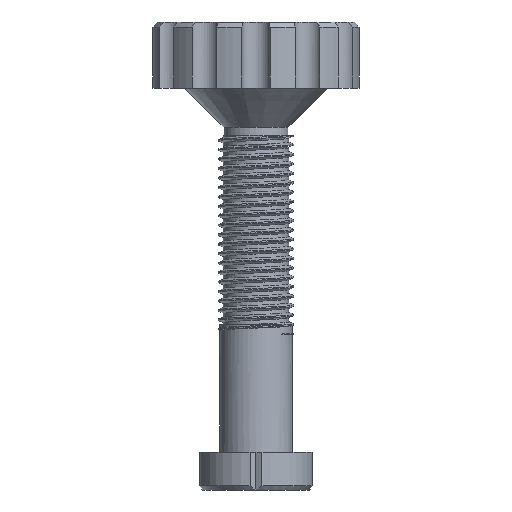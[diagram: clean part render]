
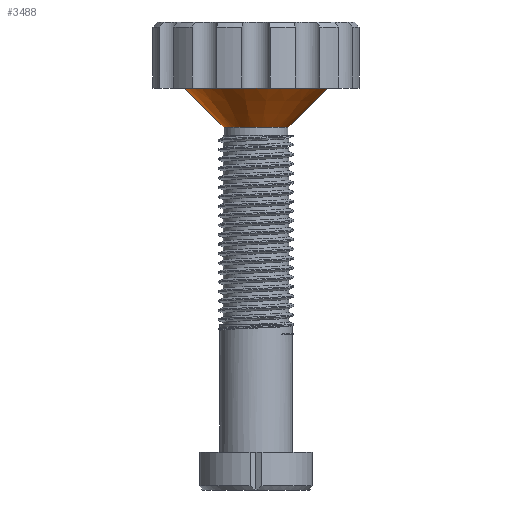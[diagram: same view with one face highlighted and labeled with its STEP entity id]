
A CAD part, front view. The second image highlights one B-rep face of the part: STEP entity #3488.
In plain terms, the highlighted conical face has half-angle 45 degrees and reference radius 6.768 mm.
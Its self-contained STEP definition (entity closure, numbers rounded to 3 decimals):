
#118 = PLANE('',#119);
#119 = AXIS2_PLACEMENT_3D('',#120,#121,#122);
#120 = CARTESIAN_POINT('',(0.,0.,76.));
#121 = DIRECTION('',(0.,0.,1.));
#122 = DIRECTION('',(1.,0.,-0.));
#1050 = EDGE_CURVE('',#1051,#1051,#1053,.T.);
#1051 = VERTEX_POINT('',#1052);
#1052 = CARTESIAN_POINT('',(15.05,0.,76.));
#1053 = SURFACE_CURVE('',#1054,(#1059,#1066),.PCURVE_S1.);
#1054 = CIRCLE('',#1055,15.05);
#1055 = AXIS2_PLACEMENT_3D('',#1056,#1057,#1058);
#1056 = CARTESIAN_POINT('',(0.,0.,76.));
#1057 = DIRECTION('',(0.,0.,1.));
#1058 = DIRECTION('',(1.,0.,-0.));
#1059 = PCURVE('',#118,#1060);
#1060 = DEFINITIONAL_REPRESENTATION('',(#1061),#1065);
#1061 = CIRCLE('',#1062,15.05);
#1062 = AXIS2_PLACEMENT_2D('',#1063,#1064);
#1063 = CARTESIAN_POINT('',(0.,0.));
#1064 = DIRECTION('',(1.,0.));
#1065 = ( GEOMETRIC_REPRESENTATION_CONTEXT(2) 
PARAMETRIC_REPRESENTATION_CONTEXT() REPRESENTATION_CONTEXT('2D SPACE',''
  ) );
#1066 = PCURVE('',#1067,#1072);
#1067 = CONICAL_SURFACE('',#1068,6.767,0.785);
#1068 = AXIS2_PLACEMENT_3D('',#1069,#1070,#1071);
#1069 = CARTESIAN_POINT('',(0.,0.,67.717));
#1070 = DIRECTION('',(0.,0.,1.));
#1071 = DIRECTION('',(1.,0.,-0.));
#1072 = DEFINITIONAL_REPRESENTATION('',(#1073),#1077);
#1073 = LINE('',#1074,#1075);
#1074 = CARTESIAN_POINT('',(0.,8.283));
#1075 = VECTOR('',#1076,1.);
#1076 = DIRECTION('',(1.,0.));
#1077 = ( GEOMETRIC_REPRESENTATION_CONTEXT(2) 
PARAMETRIC_REPRESENTATION_CONTEXT() REPRESENTATION_CONTEXT('2D SPACE',''
  ) );
#3488 = ADVANCED_FACE('',(#3489),#1067,.T.);
#3489 = FACE_BOUND('',#3490,.T.);
#3490 = EDGE_LOOP('',(#3491,#3492,#3515,#3542));
#3491 = ORIENTED_EDGE('',*,*,#1050,.F.);
#3492 = ORIENTED_EDGE('',*,*,#3493,.F.);
#3493 = EDGE_CURVE('',#3494,#1051,#3496,.T.);
#3494 = VERTEX_POINT('',#3495);
#3495 = CARTESIAN_POINT('',(6.767,0.,
    67.717));
#3496 = SEAM_CURVE('',#3497,(#3501,#3508),.PCURVE_S1.);
#3497 = LINE('',#3498,#3499);
#3498 = CARTESIAN_POINT('',(6.767,0.,
    67.717));
#3499 = VECTOR('',#3500,1.);
#3500 = DIRECTION('',(0.707,0.,0.707)
  );
#3501 = PCURVE('',#1067,#3502);
#3502 = DEFINITIONAL_REPRESENTATION('',(#3503),#3507);
#3503 = LINE('',#3504,#3505);
#3504 = CARTESIAN_POINT('',(6.283,-0.));
#3505 = VECTOR('',#3506,1.);
#3506 = DIRECTION('',(0.,1.));
#3507 = ( GEOMETRIC_REPRESENTATION_CONTEXT(2) 
PARAMETRIC_REPRESENTATION_CONTEXT() REPRESENTATION_CONTEXT('2D SPACE',''
  ) );
#3508 = PCURVE('',#1067,#3509);
#3509 = DEFINITIONAL_REPRESENTATION('',(#3510),#3514);
#3510 = LINE('',#3511,#3512);
#3511 = CARTESIAN_POINT('',(0.,-0.));
#3512 = VECTOR('',#3513,1.);
#3513 = DIRECTION('',(0.,1.));
#3514 = ( GEOMETRIC_REPRESENTATION_CONTEXT(2) 
PARAMETRIC_REPRESENTATION_CONTEXT() REPRESENTATION_CONTEXT('2D SPACE',''
  ) );
#3515 = ORIENTED_EDGE('',*,*,#3516,.T.);
#3516 = EDGE_CURVE('',#3494,#3494,#3517,.T.);
#3517 = SURFACE_CURVE('',#3518,(#3523,#3530),.PCURVE_S1.);
#3518 = CIRCLE('',#3519,6.767);
#3519 = AXIS2_PLACEMENT_3D('',#3520,#3521,#3522);
#3520 = CARTESIAN_POINT('',(0.,0.,67.717));
#3521 = DIRECTION('',(0.,0.,1.));
#3522 = DIRECTION('',(1.,0.,-0.));
#3523 = PCURVE('',#1067,#3524);
#3524 = DEFINITIONAL_REPRESENTATION('',(#3525),#3529);
#3525 = LINE('',#3526,#3527);
#3526 = CARTESIAN_POINT('',(0.,0.));
#3527 = VECTOR('',#3528,1.);
#3528 = DIRECTION('',(1.,0.));
#3529 = ( GEOMETRIC_REPRESENTATION_CONTEXT(2) 
PARAMETRIC_REPRESENTATION_CONTEXT() REPRESENTATION_CONTEXT('2D SPACE',''
  ) );
#3530 = PCURVE('',#3531,#3536);
#3531 = CYLINDRICAL_SURFACE('',#3532,6.767);
#3532 = AXIS2_PLACEMENT_3D('',#3533,#3534,#3535);
#3533 = CARTESIAN_POINT('',(0.,0.,66.));
#3534 = DIRECTION('',(0.,0.,1.));
#3535 = DIRECTION('',(1.,0.,-0.));
#3536 = DEFINITIONAL_REPRESENTATION('',(#3537),#3541);
#3537 = LINE('',#3538,#3539);
#3538 = CARTESIAN_POINT('',(0.,1.717));
#3539 = VECTOR('',#3540,1.);
#3540 = DIRECTION('',(1.,0.));
#3541 = ( GEOMETRIC_REPRESENTATION_CONTEXT(2) 
PARAMETRIC_REPRESENTATION_CONTEXT() REPRESENTATION_CONTEXT('2D SPACE',''
  ) );
#3542 = ORIENTED_EDGE('',*,*,#3493,.T.);
